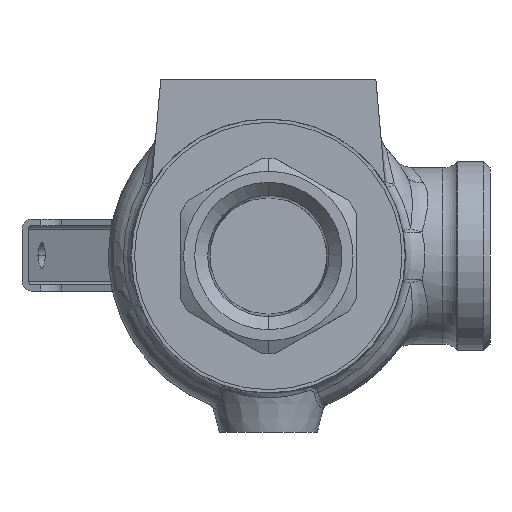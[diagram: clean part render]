
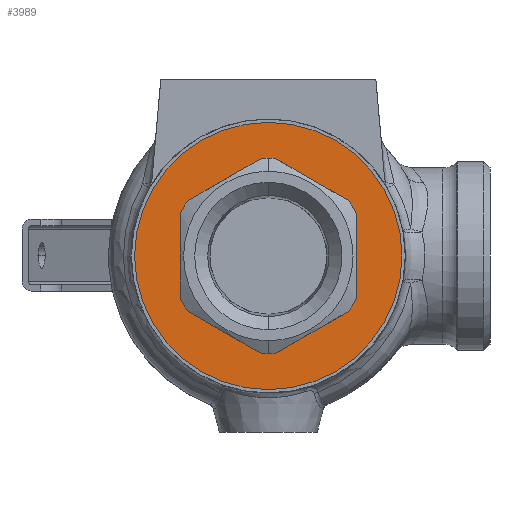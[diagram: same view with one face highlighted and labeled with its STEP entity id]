
A CAD part, front view. The second image highlights one B-rep face of the part: STEP entity #3989.
In plain terms, the highlighted planar face has unit normal (0, -1, 0).
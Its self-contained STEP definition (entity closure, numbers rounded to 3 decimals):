
#2 = VERTEX_POINT ( 'NONE', #885 ) ;
#54 = CARTESIAN_POINT ( 'NONE',  ( 0., -25., 0. ) ) ;
#91 = CARTESIAN_POINT ( 'NONE',  ( -8.625, -25., -20.568 ) ) ;
#163 = DIRECTION ( 'NONE',  ( 0., -1., 0. ) ) ;
#178 = ORIENTED_EDGE ( 'NONE', *, *, #6632, .F. ) ;
#254 = EDGE_CURVE ( 'NONE', #725, #1945, #2479, .T. ) ;
#270 = DIRECTION ( 'NONE',  ( 0., 0., 1. ) ) ;
#274 = CARTESIAN_POINT ( 'NONE',  ( 0., -25., 0. ) ) ;
#419 = ORIENTED_EDGE ( 'NONE', *, *, #1703, .F. ) ;
#505 = EDGE_LOOP ( 'NONE', ( #1031, #6783, #895, #608, #2082, #178, #4250, #419, #4509, #5576, #5757, #968, #1268 ) ) ;
#602 = CARTESIAN_POINT ( 'NONE',  ( -12.412, -25., -8.422 ) ) ;
#608 = ORIENTED_EDGE ( 'NONE', *, *, #5752, .F. ) ;
#725 = VERTEX_POINT ( 'NONE', #5729 ) ;
#765 = DIRECTION ( 'NONE',  ( 0.866, 0., -0.5 ) ) ;
#792 = CIRCLE ( 'NONE', #6425, 15. ) ;
#803 = CARTESIAN_POINT ( 'NONE',  ( 12.412, -25., -8.422 ) ) ;
#885 = CARTESIAN_POINT ( 'NONE',  ( -1.088, -25., 14.961 ) ) ;
#895 = ORIENTED_EDGE ( 'NONE', *, *, #5582, .F. ) ;
#908 = EDGE_CURVE ( 'NONE', #3460, #2, #6857, .T. ) ;
#968 = ORIENTED_EDGE ( 'NONE', *, *, #5750, .F. ) ;
#1031 = ORIENTED_EDGE ( 'NONE', *, *, #908, .F. ) ;
#1078 = DIRECTION ( 'NONE',  ( -0.866, 0., 0.5 ) ) ;
#1133 = DIRECTION ( 'NONE',  ( 0., -1., 0. ) ) ;
#1189 = LINE ( 'NONE', #1719, #1745 ) ;
#1218 = DIRECTION ( 'NONE',  ( 0., -1., 0. ) ) ;
#1245 = DIRECTION ( 'NONE',  ( 0., 0., -1. ) ) ;
#1268 = ORIENTED_EDGE ( 'NONE', *, *, #4222, .F. ) ;
#1294 = AXIS2_PLACEMENT_3D ( 'NONE', #1879, #4073, #4849 ) ;
#1328 = CARTESIAN_POINT ( 'NONE',  ( 1.088, -25., -14.961 ) ) ;
#1499 = CARTESIAN_POINT ( 'NONE',  ( -13.5, -25., -6.538 ) ) ;
#1531 = DIRECTION ( 'NONE',  ( 0., 1., 0. ) ) ;
#1574 = CARTESIAN_POINT ( 'NONE',  ( 13.5, -25., -6.538 ) ) ;
#1668 = CARTESIAN_POINT ( 'NONE',  ( -20.5, -25., 0. ) ) ;
#1682 = CARTESIAN_POINT ( 'NONE',  ( 0., -25., 0. ) ) ;
#1701 = VERTEX_POINT ( 'NONE', #1328 ) ;
#1703 = EDGE_CURVE ( 'NONE', #6066, #6034, #792, .T. ) ;
#1719 = CARTESIAN_POINT ( 'NONE',  ( 13.5, -25., 0. ) ) ;
#1723 = CARTESIAN_POINT ( 'NONE',  ( -1.088, -25., -14.961 ) ) ;
#1745 = VECTOR ( 'NONE', #5105, 1000. ) ;
#1817 = LINE ( 'NONE', #91, #4321 ) ;
#1822 = DIRECTION ( 'NONE',  ( 0., 1., 0. ) ) ;
#1845 = DIRECTION ( 'NONE',  ( 0., -1., 0. ) ) ;
#1849 = AXIS2_PLACEMENT_3D ( 'NONE', #4578, #1845, #6304 ) ;
#1863 = CARTESIAN_POINT ( 'NONE',  ( 0., -25., 0. ) ) ;
#1879 = CARTESIAN_POINT ( 'NONE',  ( 0., -25., 0. ) ) ;
#1945 = VERTEX_POINT ( 'NONE', #1499 ) ;
#2082 = ORIENTED_EDGE ( 'NONE', *, *, #6638, .F. ) ;
#2286 = DIRECTION ( 'NONE',  ( 0.866, 0., 0.5 ) ) ;
#2308 = LINE ( 'NONE', #5194, #6816 ) ;
#2310 = VECTOR ( 'NONE', #3539, 1000. ) ;
#2317 = CARTESIAN_POINT ( 'NONE',  ( -13.5, -25., 0. ) ) ;
#2330 = DIRECTION ( 'NONE',  ( 0., 0., -1. ) ) ;
#2343 = VERTEX_POINT ( 'NONE', #4539 ) ;
#2479 = LINE ( 'NONE', #2317, #2969 ) ;
#2531 = AXIS2_PLACEMENT_3D ( 'NONE', #54, #1531, #3730 ) ;
#2563 = VERTEX_POINT ( 'NONE', #1574 ) ;
#2636 = DIRECTION ( 'NONE',  ( 0., -1., 0. ) ) ;
#2764 = AXIS2_PLACEMENT_3D ( 'NONE', #1668, #1133, #6646 ) ;
#2824 = AXIS2_PLACEMENT_3D ( 'NONE', #3975, #163, #1245 ) ;
#2895 = CARTESIAN_POINT ( 'NONE',  ( 0., -25., 0. ) ) ;
#2948 = EDGE_CURVE ( 'NONE', #6034, #1701, #7123, .T. ) ;
#2969 = VECTOR ( 'NONE', #4517, 1000. ) ;
#3216 = CARTESIAN_POINT ( 'NONE',  ( 0., -25., -20.5 ) ) ;
#3353 = AXIS2_PLACEMENT_3D ( 'NONE', #1863, #3982, #4493 ) ;
#3435 = CARTESIAN_POINT ( 'NONE',  ( -22.125, -25., 2.815 ) ) ;
#3460 = VERTEX_POINT ( 'NONE', #6636 ) ;
#3539 = DIRECTION ( 'NONE',  ( -0.866, 0., -0.5 ) ) ;
#3730 = DIRECTION ( 'NONE',  ( 0., 0., 1. ) ) ;
#3784 = EDGE_CURVE ( 'NONE', #4278, #6490, #5660, .T. ) ;
#3806 = AXIS2_PLACEMENT_3D ( 'NONE', #2895, #1822, #270 ) ;
#3975 = CARTESIAN_POINT ( 'NONE',  ( 0., -25., 0. ) ) ;
#3982 = DIRECTION ( 'NONE',  ( 0., -1., 0. ) ) ;
#3989 = ADVANCED_FACE ( 'NONE', ( #6134, #4406 ), #6611, .T. ) ;
#4014 = CARTESIAN_POINT ( 'NONE',  ( 13.5, -25., 6.538 ) ) ;
#4073 = DIRECTION ( 'NONE',  ( 0., -1., 0. ) ) ;
#4222 = EDGE_CURVE ( 'NONE', #2, #4890, #5125, .T. ) ;
#4250 = ORIENTED_EDGE ( 'NONE', *, *, #2948, .F. ) ;
#4272 = CARTESIAN_POINT ( 'NONE',  ( 0., -25., 0. ) ) ;
#4278 = VERTEX_POINT ( 'NONE', #6388 ) ;
#4321 = VECTOR ( 'NONE', #2286, 1000. ) ;
#4383 = ORIENTED_EDGE ( 'NONE', *, *, #3784, .F. ) ;
#4390 = CIRCLE ( 'NONE', #1294, 15. ) ;
#4406 = FACE_OUTER_BOUND ( 'NONE', #6551, .T. ) ;
#4493 = DIRECTION ( 'NONE',  ( 0., 0., -1. ) ) ;
#4509 = ORIENTED_EDGE ( 'NONE', *, *, #4646, .F. ) ;
#4517 = DIRECTION ( 'NONE',  ( 0., 0., -1. ) ) ;
#4539 = CARTESIAN_POINT ( 'NONE',  ( 12.412, -25., 8.422 ) ) ;
#4578 = CARTESIAN_POINT ( 'NONE',  ( 0., -25., 0. ) ) ;
#4646 = EDGE_CURVE ( 'NONE', #6438, #6066, #2308, .T. ) ;
#4693 = EDGE_CURVE ( 'NONE', #1945, #6438, #4949, .T. ) ;
#4849 = DIRECTION ( 'NONE',  ( 0., 0., -1. ) ) ;
#4877 = AXIS2_PLACEMENT_3D ( 'NONE', #1682, #1218, #2330 ) ;
#4890 = VERTEX_POINT ( 'NONE', #6997 ) ;
#4925 = AXIS2_PLACEMENT_3D ( 'NONE', #4272, #2636, #5899 ) ;
#4946 = EDGE_CURVE ( 'NONE', #2343, #3460, #5008, .T. ) ;
#4949 = CIRCLE ( 'NONE', #1849, 15. ) ;
#4972 = CARTESIAN_POINT ( 'NONE',  ( -8.625, -25., 20.568 ) ) ;
#5008 = LINE ( 'NONE', #4972, #6689 ) ;
#5105 = DIRECTION ( 'NONE',  ( 0., 0., 1. ) ) ;
#5125 = LINE ( 'NONE', #3435, #2310 ) ;
#5194 = CARTESIAN_POINT ( 'NONE',  ( -22.125, -25., -2.815 ) ) ;
#5246 = CIRCLE ( 'NONE', #2824, 15. ) ;
#5476 = VERTEX_POINT ( 'NONE', #803 ) ;
#5576 = ORIENTED_EDGE ( 'NONE', *, *, #4693, .F. ) ;
#5582 = EDGE_CURVE ( 'NONE', #6652, #2343, #4390, .T. ) ;
#5649 = CIRCLE ( 'NONE', #2531, 20.5 ) ;
#5660 = CIRCLE ( 'NONE', #3806, 20.5 ) ;
#5687 = DIRECTION ( 'NONE',  ( 0., -1., 0. ) ) ;
#5720 = DIRECTION ( 'NONE',  ( 0., 0., -1. ) ) ;
#5729 = CARTESIAN_POINT ( 'NONE',  ( -13.5, -25., 6.538 ) ) ;
#5750 = EDGE_CURVE ( 'NONE', #4890, #725, #6458, .T. ) ;
#5752 = EDGE_CURVE ( 'NONE', #2563, #6652, #1189, .T. ) ;
#5757 = ORIENTED_EDGE ( 'NONE', *, *, #254, .F. ) ;
#5899 = DIRECTION ( 'NONE',  ( 0., 0., -1. ) ) ;
#6034 = VERTEX_POINT ( 'NONE', #6116 ) ;
#6066 = VERTEX_POINT ( 'NONE', #1723 ) ;
#6116 = CARTESIAN_POINT ( 'NONE',  ( 0., -25., -15. ) ) ;
#6134 = FACE_BOUND ( 'NONE', #505, .T. ) ;
#6304 = DIRECTION ( 'NONE',  ( 0., 0., -1. ) ) ;
#6388 = CARTESIAN_POINT ( 'NONE',  ( 0., -25., 20.5 ) ) ;
#6425 = AXIS2_PLACEMENT_3D ( 'NONE', #274, #5687, #5720 ) ;
#6438 = VERTEX_POINT ( 'NONE', #602 ) ;
#6454 = EDGE_CURVE ( 'NONE', #6490, #4278, #5649, .T. ) ;
#6458 = CIRCLE ( 'NONE', #3353, 15. ) ;
#6490 = VERTEX_POINT ( 'NONE', #3216 ) ;
#6551 = EDGE_LOOP ( 'NONE', ( #4383, #6972 ) ) ;
#6611 = PLANE ( 'NONE',  #2764 ) ;
#6632 = EDGE_CURVE ( 'NONE', #1701, #5476, #1817, .T. ) ;
#6636 = CARTESIAN_POINT ( 'NONE',  ( 1.088, -25., 14.961 ) ) ;
#6638 = EDGE_CURVE ( 'NONE', #5476, #2563, #5246, .T. ) ;
#6646 = DIRECTION ( 'NONE',  ( 0., 0., -1. ) ) ;
#6652 = VERTEX_POINT ( 'NONE', #4014 ) ;
#6689 = VECTOR ( 'NONE', #1078, 1000. ) ;
#6783 = ORIENTED_EDGE ( 'NONE', *, *, #4946, .F. ) ;
#6816 = VECTOR ( 'NONE', #765, 1000. ) ;
#6857 = CIRCLE ( 'NONE', #4877, 15. ) ;
#6972 = ORIENTED_EDGE ( 'NONE', *, *, #6454, .F. ) ;
#6997 = CARTESIAN_POINT ( 'NONE',  ( -12.412, -25., 8.422 ) ) ;
#7123 = CIRCLE ( 'NONE', #4925, 15. ) ;
